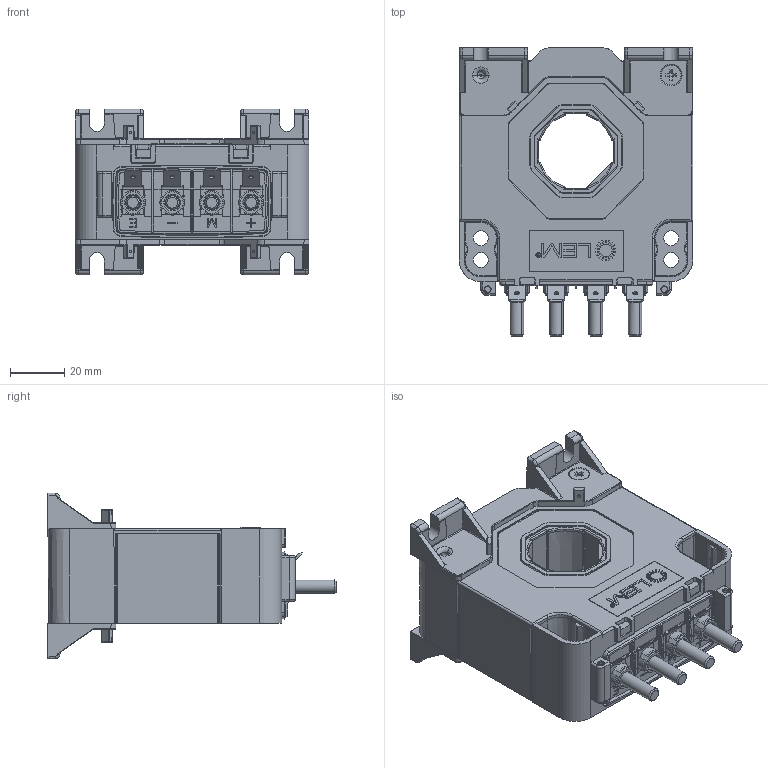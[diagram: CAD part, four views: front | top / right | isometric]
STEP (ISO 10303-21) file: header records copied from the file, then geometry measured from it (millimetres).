
FILE_DESCRIPTION(('Creo Elements/Direct Modeling STEP Export'),'2;1');
FILE_NAME('90.A2.50.000.0_20240531.stp','2024-05-31T 9:24:24',(''),(''),'Creo Elements/Direct Modeling STEP processor for AP214 (Solid Model)','Creo Elements/Direct Modeling 20.3D 14-Nov-2022 (C) Parametric Technology GmbH','');
FILE_SCHEMA(('AUTOMOTIVE_DESIGN { 1 0 10303 214 1 1 1 1 }'));
Products named in the file (2): LTC 500-SF
Assembly tree (1 placements, depth 2):
  LTC 500-SF
    LTC 500-SF
Bounding box: 86.03 x 106.02 x 61 mm (x, y, z)
Volume: 206643.1 mm3; surface area: 64831.6 mm2
Topology: 1 solids, 6 shells, 2556 faces, 6796 edges, 4303 vertices
Faces by surface type: plane 1195, cylinder 684, bspline 208, cone 195, torus 151, extrusion 123
Entity records: 108118 total; most frequent: CARTESIAN_POINT 44289, ORIENTED_EDGE 13584, DIRECTION 10871, EDGE_CURVE 6788, VERTEX_POINT 4303, VECTOR 3861, LINE 3738, AXIS2_PLACEMENT_3D 3505
